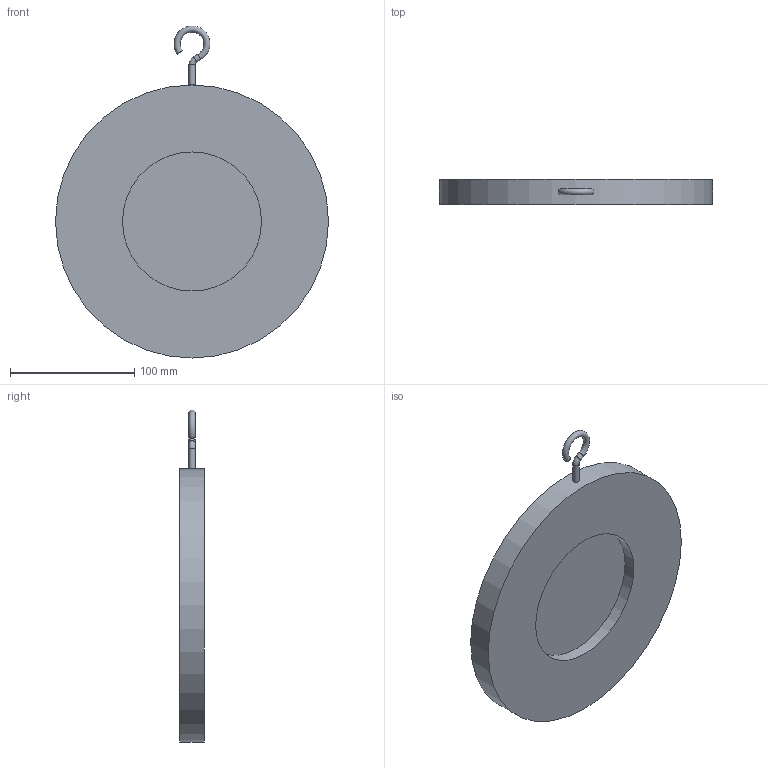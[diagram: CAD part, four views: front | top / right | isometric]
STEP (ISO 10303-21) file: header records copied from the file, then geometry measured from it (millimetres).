
FILE_DESCRIPTION(('STEP AP203'), '1');
FILE_NAME('孰囡囗 钺疣蝽 钿眍耱忸瘅囹 戾骠豚眦邂 008C DN150', '', ('UNSPECIFIED'), ('UNSPECIFIED'), 'ASCON STEP Converter 1.6', 'ASCON Math Kernel', '');
FILE_SCHEMA(('CONFIG_CONTROL_DESIGN'));
Length unit declared in the file: millimetre
Bounding box: 220 x 20 x 267.49 mm (x, y, z)
Volume: 575366.3 mm3; surface area: 100483.1 mm2
Topology: 1 solids, 1 shells, 15 faces, 30 edges, 19 vertices
Faces by surface type: plane 7, cylinder 5, torus 2, cone 1
Full cylindrical faces by diameter (mm): 5 x2, 112 x1, 220 x1
Entity records: 740 total; most frequent: CARTESIAN_POINT 296, DIRECTION 62, ORIENTED_EDGE 46, AXIS2_PLACEMENT_3D 28, EDGE_LOOP 24, EDGE_CURVE 23, VERTEX_POINT 19, COLOUR_RGB 16
